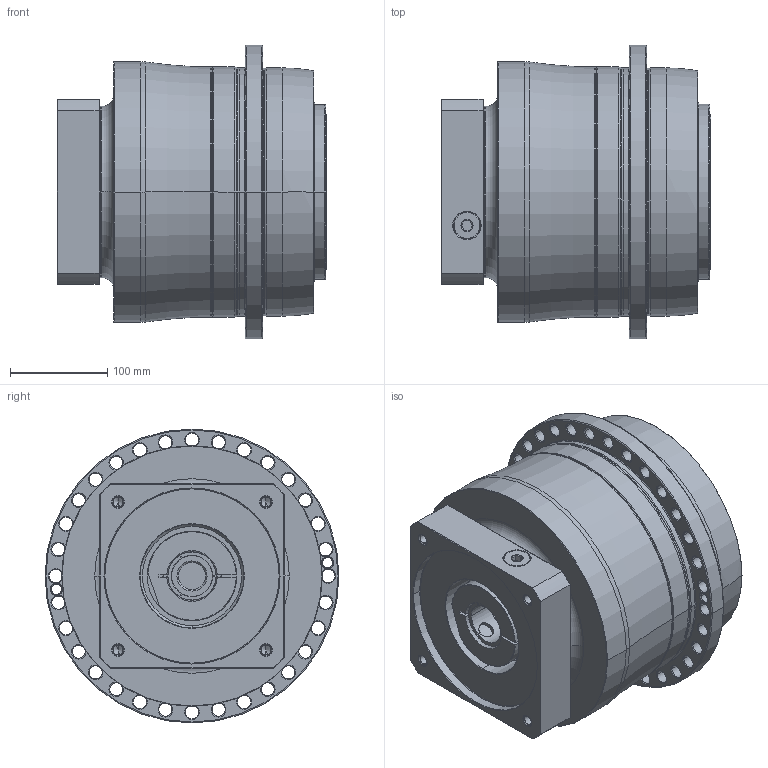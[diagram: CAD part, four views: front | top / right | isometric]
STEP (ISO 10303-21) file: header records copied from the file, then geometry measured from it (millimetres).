
FILE_DESCRIPTION((''),'2;1');
FILE_NAME('AP255_2ST_42-P0409A00201_ASM','2018-05-30T',('d01226'),(''),'PRO/ENGINEER BY PARAMETRIC TECHNOLOGY CORPORATION, 2008410','PRO/ENGINEER BY PARAMETRIC TECHNOLOGY CORPORATION, 2008410','');
FILE_SCHEMA(('CONFIG_CONTROL_DESIGN'));
Length unit declared in the file: millimetre
Products named in the file (9): P0278701003; P0359701103; P1317710301; P0503A00012; P0912603001; P1211700001; P0409A00201; 21711422019; AP255_2ST_42-P0409A00201_ASM
Assembly tree (8 placements, depth 2):
  AP255_2ST_42-P0409A00201_ASM
    P0278701003
    P0359701103
    P1317710301
    P0503A00012
    P0912603001
    P1211700001
    P0409A00201
    21711422019
Bounding box: 277 x 302 x 302 mm (x, y, z)
Volume: 11627714.7 mm3; surface area: 799922.7 mm2
Topology: 9 solids, 32 shells, 685 faces, 1635 edges, 993 vertices
Faces by surface type: cylinder 274, cone 224, plane 101, torus 72, bspline 14
Entity records: 24799 total; most frequent: CARTESIAN_POINT 8063, DIRECTION 3865, ORIENTED_EDGE 3156, AXIS2_PLACEMENT_3D 1651, EDGE_CURVE 1625, VERTEX_POINT 993, CIRCLE 951, EDGE_LOOP 828
